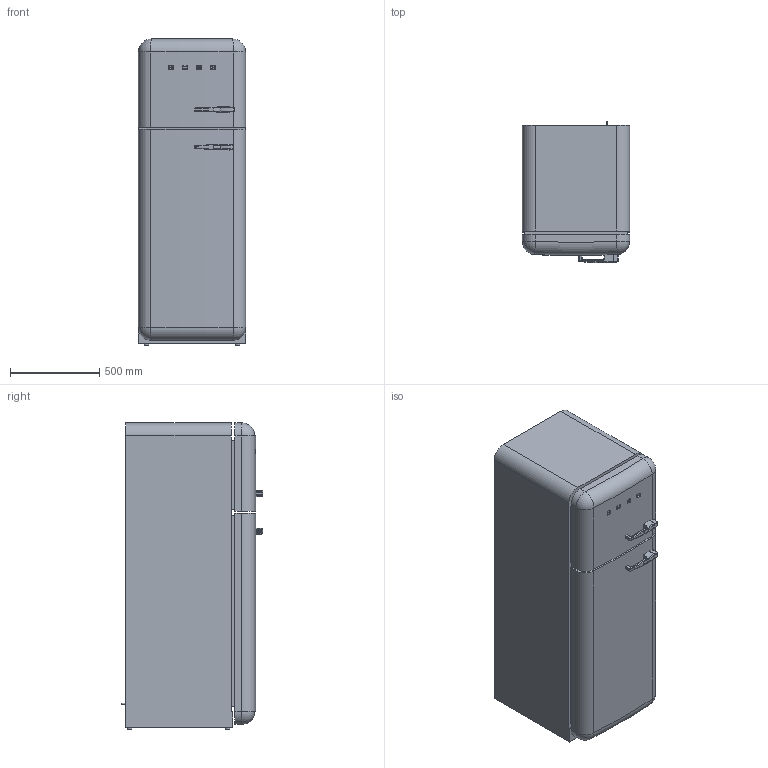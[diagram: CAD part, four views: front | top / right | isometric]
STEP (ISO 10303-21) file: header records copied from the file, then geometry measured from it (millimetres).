
FILE_DESCRIPTION(/* description */ (''),/* implementation_level */ '2;1');
FILE_NAME(/* name */ 'frigo fab30l new.stp',/* time_stamp */ '2019-07-08T14:56:25+02:00',/* author */ (''),/* organization */ (''),/* preprocessor_version */ 'ST-DEVELOPER v16',/* originating_system */ 'SIEMENS PLM Software NX 11.0',/* authorisation */ '');
FILE_SCHEMA (('AUTOMOTIVE_DESIGN { 1 0 10303 214 3 1 1 1 }'));
Length unit declared in the file: millimetre
Products named in the file (1): gobb267C896Dbaep
Bounding box: 601 x 793 x 1715 mm (x, y, z)
Volume: 732116942.4 mm3; surface area: 5727155.4 mm2
Topology: 7 solids, 7 shells, 387 faces, 934 edges, 571 vertices
Faces by surface type: plane 145, cylinder 144, torus 42, bspline 23, cone 21, sphere 12
Full cylindrical faces by diameter (mm): 1.697 x40, 5 x1, 20 x1, 26 x4
Entity records: 11720 total; most frequent: CARTESIAN_POINT 2898, DIRECTION 1901, ORIENTED_EDGE 1680, EDGE_CURVE 840, AXIS2_PLACEMENT_3D 738, VERTEX_POINT 571, EDGE_LOOP 491, LINE 425
